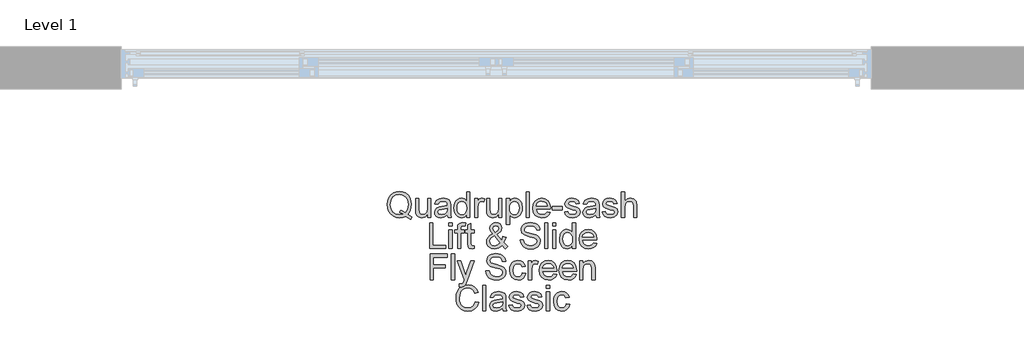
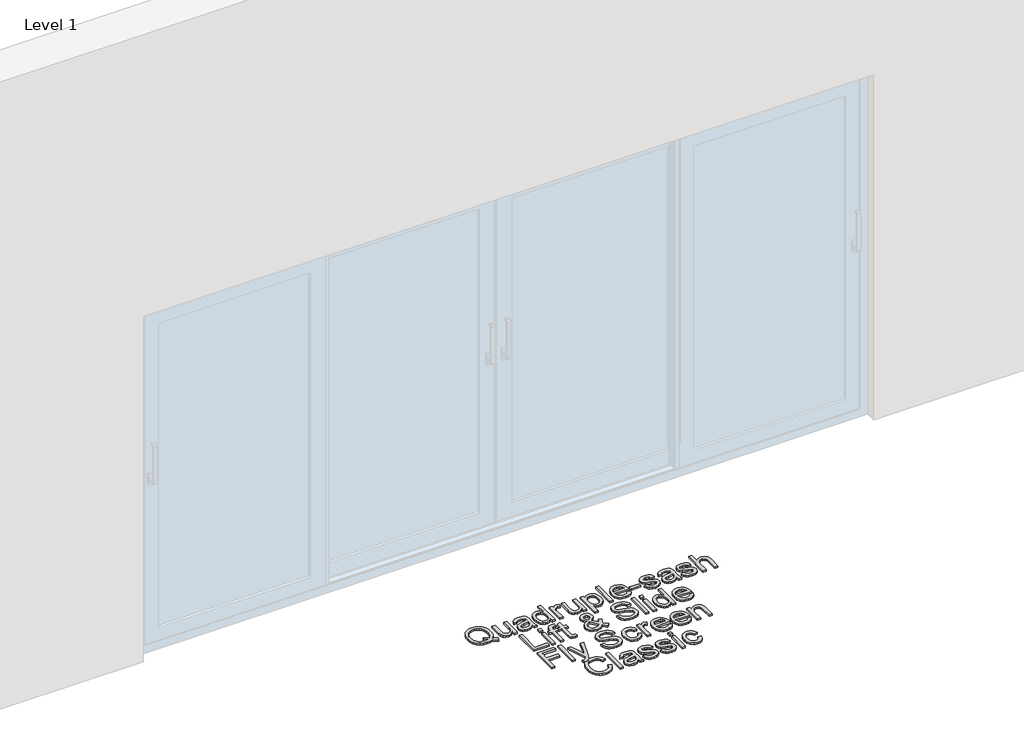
# One storey, part 5 of 17: 1 proxy.
"""IFC4 building model written with IfcOpenShell, lengths in millimetres."""

from ifc_helpers import new_model, si_unit, origin, origin_with_axes, place, context, project, spatial, polyline, outline, extrude, element, save

model = new_model("IFC4")

# Units and contexts
model_context = context("Model", 3, world=origin())
ifc_project = project(units=[si_unit("LENGTHUNIT", "METRE", prefix="MILLI")], contexts=[model_context])

# Site, building, storey
site = spatial("IfcSite", under=ifc_project)
building = spatial("IfcBuilding", under=site)
storey = spatial("IfcBuildingStorey", under=building, Name="Level 1", Elevation=0.0)

# Proxy
placement = place(None, origin())
element("IfcBuildingElementProxy", 1, Name="150mm Arial", ObjectType="150mm Arial", at=placement, inside=storey, context=model_context, shape_type="SweptSolid", body=[
    extrude(outline(polyline([(1259.3241759, -5879.5997474), (1282.6846826, -5895.3083086), (1277.6079111, -5909.1038834), (1246.5954589, -5891.4823358), (1229.1670494, -5897.8834825), (1209.9912004, -5900.0171981), (1190.7233809, -5897.5569873), (1173.3133655, -5890.1763547), (1158.7314429, -5878.3397515), (1147.9479019, -5862.5116287), (1141.2846392, -5843.5611074), (1139.0635517, -5822.3573089), (1141.2800407, -5801.1351163), (1147.9295078, -5781.9086836), (1158.671662, -5765.855233), (1173.1662127, -5754.151987), (1190.5118487, -5747.0058793), (1209.8072594, -5744.6238433), (1229.2544213, -5747.0610616), (1246.6874294, -5754.3727162), (1261.1589874, -5766.0713637), (1271.7217992, -5781.6695603), (1278.1781282, -5800.3395715), (1280.3302379, -5821.2536629), (1275.1063135, -5854.1791015), (1268.548817, -5867.8367206), (1259.3241759, -5879.5997474)]), holes=[polyline([(1215.1783365, -5854.5469835), (1231.0156564, -5860.534263), (1243.7995557, -5868.8575931), (1257.0708987, -5849.4334238), (1261.4946797, -5822.2101561), (1259.9311812, -5805.6324737), (1255.2406858, -5791.2896744), (1247.5381565, -5779.5450417), (1236.9385565, -5770.7618591), (1224.1592557, -5765.2850159), (1209.917624, -5763.4594015), (1189.3898086, -5767.152017), (1172.6879661, -5778.2298636), (1161.5963239, -5796.6377589), (1157.8991099, -5822.3205207), (1161.5549372, -5847.4514595), (1172.5224192, -5865.9697195), (1189.173678, -5877.3786598), (1209.8808358, -5881.18164), (1230.1511337, -5877.318879), (1210.3222942, -5868.9679577), (1215.1783365, -5854.5469835)])]), origin_with_axes(), (0.0, 0.0, 1.0), 10.0),
    extrude(outline(polyline([(1376.8624734, -5897.6627533), (1376.8624734, -5878.6432542), (1362.1104054, -5894.6737121), (1342.870177, -5900.0171981), (1325.156659, -5896.2648018), (1312.9429767, -5886.8470227), (1307.3327763, -5872.9778715), (1306.2291303, -5855.4666885), (1306.2291303, -5787.0038492), (1325.0646885, -5787.0038492), (1325.0646885, -5846.6007324), (1326.2051227, -5865.8041726), (1333.6547331, -5877.0797557), (1347.6894312, -5881.18164), (1363.4163865, -5876.9877852), (1373.8090528, -5865.5650493), (1376.8624734, -5844.5773814), (1376.8624734, -5787.0038492), (1395.6980315, -5787.0038492), (1395.6980315, -5897.6627533), (1376.8624734, -5897.6627533)])), origin_with_axes(), (0.0, 0.0, 1.0), 10.0),
    extrude(outline(polyline([(1492.2302671, -5883.5360847), (1473.964926, -5896.30159), (1453.7865986, -5900.0171981), (1438.0458477, -5897.782315), (1426.4345722, -5891.0776656), (1419.2746689, -5880.8965314), (1416.8880345, -5868.2321937), (1420.493278, -5853.3329729), (1429.9662394, -5842.5172423), (1443.1548089, -5836.3368247), (1459.4519813, -5833.5041334), (1492.1199025, -5827.0294103), (1492.2302671, -5822.8355555), (1490.933483, -5814.4294519), (1487.0431309, -5808.9296161), (1478.3427218, -5804.846126), (1466.22101, -5803.4849626), (1447.1647227, -5807.1086002), (1438.0780374, -5819.966076), (1419.2424792, -5817.6116312), (1427.3910654, -5799.2175314), (1443.7986024, -5788.438589), (1468.6490312, -5784.6494044), (1491.476109, -5787.9971306), (1504.3703729, -5796.4032342), (1510.1461202, -5809.1871335), (1511.0658252, -5825.6682469), (1511.0658252, -5849.10233), (1512.0223184, -5881.8254334), (1515.7747148, -5897.6627533), (1496.9391566, -5897.6627533), (1492.2302671, -5883.5360847)]), holes=[polyline([(1492.2302671, -5845.8649684), (1461.8432143, -5851.6407157), (1445.6380124, -5854.6941363), (1438.2987666, -5859.6605432), (1435.7235926, -5866.9078185), (1441.333793, -5877.0981498), (1457.7965123, -5881.18164), (1476.8527997, -5876.6750855), (1489.1400583, -5865.7673844), (1492.1199025, -5851.1992574), (1492.2302671, -5845.8649684)])]), origin_with_axes(), (0.0, 0.0, 1.0), 10.0),
    extrude(outline(polyline([(1605.243616, -5897.6627533), (1605.243616, -5879.894053), (1592.7816134, -5894.9864118), (1575.555539, -5900.0171981), (1563.3786449, -5898.1961822), (1552.2318205, -5892.7331346), (1542.7956473, -5884.0097328), (1535.7507071, -5872.4076544), (1531.3637143, -5858.3959489), (1529.9013834, -5842.4436659), (1535.2908546, -5812.4612833), (1542.0230951, -5800.5694978), (1551.4408742, -5791.8231033), (1562.8314205, -5786.4428292), (1575.4819626, -5784.6494044), (1592.8459928, -5789.7813583), (1605.243616, -5803.1170806), (1605.243616, -5746.9782881), (1624.0791741, -5746.9782881), (1624.0791741, -5897.6627533), (1605.243616, -5897.6627533)]), holes=[polyline([(1548.7369415, -5842.3700895), (1550.8614601, -5859.4076244), (1557.2350156, -5871.5247376), (1566.4964449, -5878.7674144), (1577.2845844, -5881.18164), (1588.0681253, -5878.877779), (1597.0950298, -5871.966196), (1603.2064694, -5860.3181323), (1605.243616, -5843.8048292), (1603.1696812, -5825.7510203), (1596.947877, -5813.2338354), (1587.6910463, -5805.9221808), (1576.5120322, -5803.4849626), (1565.6135281, -5805.8256118), (1556.6831926, -5812.8475594), (1550.7235043, -5824.9094903), (1548.7369415, -5842.3700895)])]), origin_with_axes(), (0.0, 0.0, 1.0), 10.0),
    extrude(outline(polyline([(1652.3325114, -5897.6627533), (1652.3325114, -5787.0038492), (1668.8136248, -5787.0038492), (1668.8136248, -5803.374598), (1680.5122722, -5788.2914362), (1692.2844961, -5784.6494044), (1711.1936306, -5790.4619399), (1704.9028485, -5807.3477235), (1691.6590967, -5803.4849626), (1681.0089129, -5807.2005707), (1674.2214901, -5817.5012666), (1671.1680695, -5839.5006099), (1671.1680695, -5897.6627533), (1652.3325114, -5897.6627533)])), origin_with_axes(), (0.0, 0.0, 1.0), 10.0),
    extrude(outline(polyline([(1793.5991975, -5897.6627533), (1793.5991975, -5878.6432542), (1778.8471295, -5894.6737121), (1759.6069012, -5900.0171981), (1741.8933831, -5896.2648018), (1729.6797009, -5886.8470227), (1724.0695004, -5872.9778715), (1722.9658544, -5855.4666885), (1722.9658544, -5787.0038492), (1741.8014126, -5787.0038492), (1741.8014126, -5846.6007324), (1742.9418468, -5865.8041726), (1750.3914572, -5877.0797557), (1764.4261553, -5881.18164), (1780.1531106, -5876.9877852), (1790.545777, -5865.5650493), (1793.5991975, -5844.5773814), (1793.5991975, -5787.0038492), (1812.4347557, -5787.0038492), (1812.4347557, -5897.6627533), (1793.5991975, -5897.6627533)])), origin_with_axes(), (0.0, 0.0, 1.0), 10.0),
    extrude(outline(polyline([(1838.3336481, -5940.0427592), (1838.3336481, -5787.0038492), (1857.1692063, -5787.0038492), (1857.1692063, -5805.4715254), (1870.1922289, -5789.8549347), (1887.7769883, -5784.6494044), (1900.5149024, -5786.4704203), (1911.6525298, -5791.9334679), (1920.720821, -5800.7074535), (1927.2507264, -5812.4612833), (1932.5114389, -5841.4871727), (1931.0261153, -5857.5958055), (1926.5701447, -5872.0029842), (1919.2860812, -5883.9775431), (1909.3164791, -5892.7883169), (1897.7052036, -5898.2099778), (1885.4961199, -5900.0171981), (1869.106977, -5895.1795499), (1857.1692063, -5882.9474735), (1857.1692063, -5940.0427592), (1838.3336481, -5940.0427592)]), holes=[polyline([(1857.1692063, -5843.2162181), (1859.2063528, -5860.1020016), (1865.3177925, -5871.9110137), (1874.3354999, -5878.8639834), (1885.0914497, -5881.18164), (1896.0221435, -5878.7812099), (1905.2697772, -5871.5799199), (1911.5743549, -5859.3386465), (1913.6758807, -5841.8182665), (1911.6249386, -5825.0244534), (1905.4721123, -5813.0498945), (1896.4682004, -5805.8761955), (1885.8640019, -5803.4849626), (1875.2184167, -5806.0279469), (1865.8696155, -5813.6568997), (1859.3443086, -5826.1326979), (1857.1692063, -5843.2162181)])]), origin_with_axes(), (0.0, 0.0, 1.0), 10.0),
    extrude(outline(polyline([(1953.7014418, -5897.6627533), (1953.7014418, -5746.9782881), (1972.537, -5746.9782881), (1972.537, -5897.6627533), (1953.7014418, -5897.6627533)])), origin_with_axes(), (0.0, 0.0, 1.0), 10.0),
    extrude(outline(polyline([(2078.2662854, -5864.7005266), (2096.7339615, -5867.0549713), (2090.079896, -5880.9701078), (2079.4619019, -5891.3719712), (2065.1191026, -5897.8558914), (2047.2906214, -5900.0171981), (2025.1901105, -5896.2877944), (2008.1847653, -5885.0995832), (1997.3414435, -5867.1791315), (1993.7270029, -5843.2530063), (1997.3782317, -5818.5221391), (2008.3319181, -5800.0268718), (2025.1073371, -5788.4937713), (2046.2237636, -5784.6494044), (2066.6826011, -5788.4845742), (2083.0303572, -5799.9900836), (2093.7495189, -5818.4485627), (2097.3225727, -5843.1426417), (2097.2122081, -5848.2194132), (2012.5625611, -5848.2194132), (2015.8229152, -5862.3184907), (2023.3966858, -5872.6835659), (2034.3273796, -5879.0571214), (2047.6585034, -5881.18164), (2066.1261795, -5877.2453026), (2078.2662854, -5864.7005266)]), holes=[polyline([(2012.5625611, -5829.383855), (2078.4870146, -5829.383855), (2075.9394318, -5819.4326471), (2070.9454337, -5812.3141305), (2059.9641561, -5805.6922545), (2046.1501872, -5803.4849626), (2033.4536599, -5805.2461976), (2022.9552274, -5810.5299028), (2015.6573683, -5818.765861), (2012.5625611, -5829.383855)])]), origin_with_axes(), (0.0, 0.0, 1.0), 10.0),
    extrude(outline(polyline([(2106.7403518, -5852.9283027), (2106.7403518, -5834.0927446), (2165.601471, -5834.0927446), (2165.601471, -5852.9283027), (2106.7403518, -5852.9283027)])), origin_with_axes(), (0.0, 0.0, 1.0), 10.0),
    extrude(outline(polyline([(2179.7281397, -5864.7005266), (2198.5636978, -5862.3460818), (2201.5343449, -5870.4026975), (2207.2825011, -5876.3255976), (2227.2584934, -5881.18164), (2246.4619336, -5876.7302678), (2252.7159275, -5866.2824192), (2251.143232, -5861.4815591), (2246.4251454, -5857.8211333), (2227.0377642, -5852.4500561), (2198.6740624, -5843.2346122), (2186.2948333, -5832.4740638), (2182.0825844, -5817.2805374), (2185.4670988, -5803.2458393), (2194.7009369, -5792.5220791), (2206.6754958, -5786.9486669), (2222.8806977, -5784.6494044), (2245.799746, -5788.3466185), (2260.367873, -5798.3530087), (2266.8425961, -5815.2571864), (2248.007038, -5817.6116312), (2240.9253096, -5807.2189648), (2224.3522257, -5803.4849626), (2206.3260079, -5807.0534179), (2200.9181426, -5815.367551), (2203.1622228, -5820.8489927), (2210.1887689, -5825.0060593), (2226.4123648, -5829.015973), (2254.0586968, -5837.8819291), (2266.8977784, -5847.9251076), (2271.5514857, -5864.2958564), (2266.088438, -5882.3220741), (2250.3246945, -5895.4002791), (2227.000976, -5900.0171981), (2208.009068, -5897.791512), (2194.1491139, -5891.1144538), (2184.8968817, -5880.0595999), (2179.7281397, -5864.7005266)])), origin_with_axes(), (0.0, 0.0, 1.0), 10.0),
    extrude(outline(polyline([(2363.3748317, -5883.5360847), (2345.1094906, -5896.30159), (2324.9311632, -5900.0171981), (2309.1904123, -5897.782315), (2297.5791368, -5891.0776656), (2290.4192335, -5880.8965314), (2288.032599, -5868.2321937), (2291.6378426, -5853.3329729), (2301.110804, -5842.5172423), (2314.2993735, -5836.3368247), (2330.5965459, -5833.5041334), (2363.2644671, -5827.0294103), (2363.3748317, -5822.8355555), (2362.0780476, -5814.4294519), (2358.1876955, -5808.9296161), (2349.4872863, -5804.846126), (2337.3655746, -5803.4849626), (2318.3092872, -5807.1086002), (2309.222602, -5819.966076), (2290.3870438, -5817.6116312), (2298.53563, -5799.2175314), (2314.943167, -5788.438589), (2339.7935958, -5784.6494044), (2362.6206736, -5787.9971306), (2375.5149375, -5796.4032342), (2381.2906848, -5809.1871335), (2382.2103898, -5825.6682469), (2382.2103898, -5849.10233), (2383.166883, -5881.8254334), (2386.9192793, -5897.6627533), (2368.0837212, -5897.6627533), (2363.3748317, -5883.5360847)]), holes=[polyline([(2363.3748317, -5845.8649684), (2332.9877789, -5851.6407157), (2316.782577, -5854.6941363), (2309.4433312, -5859.6605432), (2306.8681572, -5866.9078185), (2312.4783576, -5877.0981498), (2328.9410769, -5881.18164), (2347.9973643, -5876.6750855), (2360.2846229, -5865.7673844), (2363.2644671, -5851.1992574), (2363.3748317, -5845.8649684)])]), origin_with_axes(), (0.0, 0.0, 1.0), 10.0),
    extrude(outline(polyline([(2401.045948, -5864.7005266), (2419.8815061, -5862.3460818), (2422.8521532, -5870.4026975), (2428.6003094, -5876.3255976), (2448.5763017, -5881.18164), (2467.7797419, -5876.7302678), (2474.0337358, -5866.2824192), (2472.4610403, -5861.4815591), (2467.7429537, -5857.8211333), (2448.3555725, -5852.4500561), (2419.9918707, -5843.2346122), (2407.6126416, -5832.4740638), (2403.4003927, -5817.2805374), (2406.7849071, -5803.2458393), (2416.0187452, -5792.5220791), (2427.9933041, -5786.9486669), (2444.198506, -5784.6494044), (2467.1175543, -5788.3466185), (2481.6856813, -5798.3530087), (2488.1604044, -5815.2571864), (2469.3248463, -5817.6116312), (2462.2431179, -5807.2189648), (2445.670034, -5803.4849626), (2427.6438162, -5807.0534179), (2422.2359509, -5815.367551), (2424.4800311, -5820.8489927), (2431.5065772, -5825.0060593), (2447.7301731, -5829.015973), (2475.3765051, -5837.8819291), (2488.2155867, -5847.9251076), (2492.869294, -5864.2958564), (2487.4062463, -5882.3220741), (2471.6425028, -5895.4002791), (2448.3187843, -5900.0171981), (2429.3268763, -5897.791512), (2415.4669222, -5891.1144538), (2406.21469, -5880.0595999), (2401.045948, -5864.7005266)])), origin_with_axes(), (0.0, 0.0, 1.0), 10.0),
    extrude(outline(polyline([(2514.0592969, -5897.6627533), (2514.0592969, -5746.9782881), (2532.894855, -5746.9782881), (2532.894855, -5802.3813166), (2547.5825437, -5789.0823825), (2565.6731408, -5784.6494044), (2586.8263555, -5789.4870527), (2599.6654372, -5802.8595632), (2603.5281981, -5827.6180215), (2603.5281981, -5897.6627533), (2584.69264, -5897.6627533), (2584.69264, -5829.567796), (2583.1935208, -5817.7771781), (2578.6961634, -5809.7021683), (2571.4488881, -5805.039264), (2561.7000153, -5803.4849626), (2546.2673656, -5807.6788173), (2535.9666697, -5819.046371), (2532.894855, -5838.8752105), (2532.894855, -5897.6627533), (2514.0592969, -5897.6627533)])), origin_with_axes(), (0.0, 0.0, 1.0), 10.0),
    extrude(outline(polyline([(1387.4574748, -6080.6249801), (1387.4574748, -5929.9405149), (1406.293033, -5929.9405149), (1406.293033, -6061.789422), (1481.6352656, -6061.789422), (1481.6352656, -6080.6249801), (1387.4574748, -6080.6249801)])), origin_with_axes(), (0.0, 0.0, 1.0), 10.0),
    extrude(outline(polyline([(1500.4708238, -5948.776073), (1500.4708238, -5929.9405149), (1519.3063819, -5929.9405149), (1519.3063819, -5948.776073), (1500.4708238, -5948.776073)])), origin_with_axes(), (0.0, 0.0, 1.0), 10.0),
    extrude(outline(polyline([(1500.4708238, -6080.6249801), (1500.4708238, -5969.966076), (1519.3063819, -5969.966076), (1519.3063819, -6080.6249801), (1500.4708238, -6080.6249801)])), origin_with_axes(), (0.0, 0.0, 1.0), 10.0),
    extrude(outline(polyline([(1648.8008442, -6064.9164189), (1651.155289, -6081.1768031), (1637.0654086, -6082.9794249), (1621.283271, -6079.8524279), (1613.4105963, -6071.6486594), (1611.1297279, -6050.2747155), (1611.1297279, -5988.8016341), (1597.0030593, -5988.8016341), (1597.0030593, -5969.966076), (1611.1297279, -5969.966076), (1611.1297279, -5943.0739021), (1629.9652861, -5932.0006541), (1629.9652861, -5969.966076), (1648.8008442, -5969.966076), (1648.8008442, -5988.8016341), (1629.9652861, -5988.8016341), (1629.9652861, -6049.7228925), (1630.9585675, -6059.4349772), (1634.1775349, -6062.8746738), (1640.5970757, -6064.1438667), (1648.8008442, -6064.9164189)])), origin_with_axes(), (0.0, 0.0, 1.0), 10.0),
    extrude(outline(polyline([(1552.2686087, -6080.6249801), (1552.2686087, -5988.8016341), (1535.7874953, -5988.8016341), (1535.7874953, -5969.966076), (1552.2686087, -5969.966076), (1552.2686087, -5958.8192515), (1554.2551715, -5943.1106903), (1563.8936797, -5931.8902895), (1582.8763907, -5927.5860701), (1600.0564799, -5929.6462093), (1597.2973649, -5947.3045451), (1586.444846, -5946.4216283), (1574.5806517, -5949.5486252), (1571.1041668, -5961.2104845), (1571.1041668, -5969.966076), (1592.2941698, -5969.966076), (1592.2941698, -5988.8016341), (1571.1041668, -5988.8016341), (1571.1041668, -6080.6249801), (1552.2686087, -6080.6249801)])), origin_with_axes(), (0.0, 0.0, 1.0), 10.0),
    extrude(outline(polyline([(1812.9130023, -6062.0101512), (1792.9370099, -6077.7371064), (1769.5765032, -6082.9794249), (1748.7911705, -6079.0982698), (1732.7883037, -6067.4548047), (1724.53855, -6054.054703), (1721.7886321, -6039.1646793), (1724.0005226, -6025.9669127), (1730.636194, -6014.1119154), (1741.6680554, -6003.6088844), (1757.0685154, -5994.4670168), (1743.9167341, -5975.4107295), (1740.6241902, -5961.2840609), (1743.2177583, -5948.5645409), (1750.9984625, -5937.6292486), (1762.706307, -5930.0968647), (1777.0812959, -5927.5860701), (1790.7573091, -5929.9865001), (1801.6926014, -5937.1877902), (1808.8663003, -5947.7552005), (1811.2575333, -5960.2539913), (1809.4871012, -5970.7478252), (1804.1758049, -5980.4507128), (1782.9306197, -5997.4836492), (1810.1906755, -6031.4391574), (1818.3208676, -6010.5802482), (1837.1564258, -6014.6637384), (1823.8390975, -6045.6761906), (1846.5742048, -6068.4848743), (1832.4475362, -6082.9794249), (1812.9130023, -6062.0101512)]), holes=[polyline([(1773.402476, -5985.6010608), (1788.890308, -5973.9208074), (1792.4219751, -5962.8291653), (1787.7682679, -5951.0017591), (1776.1248028, -5946.4216283), (1764.2238202, -5950.9649709), (1759.4597484, -5962.0566131), (1761.0784291, -5968.9544005), (1765.9712597, -5976.6247401), (1773.402476, -5985.6010608)]), polyline([(1800.2946498, -6048.4353055), (1766.6702355, -6006.4599699), (1745.9768732, -6022.2421075), (1740.6241902, -6036.6630817), (1742.4544031, -6045.5474319), (1747.9450419, -6054.7628758), (1756.7926039, -6061.798619), (1768.6935864, -6064.1438667), (1786.0024343, -6059.766071), (1800.2946498, -6048.4353055)])]), origin_with_axes(), (0.0, 0.0, 1.0), 10.0),
    extrude(outline(polyline([(1919.5619927, -6028.8271952), (1938.3975508, -6028.8271952), (1944.4676037, -6047.6811474), (1959.2932482, -6059.6005241), (1981.8812027, -6064.1438667), (2001.5628894, -6060.7041701), (2014.2732123, -6051.2496028), (2018.448673, -6038.6128563), (2015.321676, -6026.8590265), (2002.5193826, -6018.3057701), (1975.0937798, -6011.1136771), (1945.5712497, -6001.8246567), (1929.5499888, -5987.8083527), (1924.2708822, -5969.0831592), (1925.9033586, -5958.0512978), (1930.8007876, -5947.7643976), (1938.8344107, -5939.0455943), (1949.8754691, -5932.7180239), (1977.7977125, -5927.5860701), (2007.5961541, -5932.9571472), (2019.0188901, -5939.5882202), (2027.4617819, -5948.7392848), (2032.8052678, -5959.840124), (2034.9297864, -5972.3205207), (2016.0942282, -5972.3205207), (2012.6361375, -5961.0817258), (2005.4256503, -5952.9699278), (1994.1592642, -5948.0587031), (1978.5334765, -5946.4216283), (1962.5398068, -5948.040309), (1951.5677263, -5952.8963514), (1945.2217618, -5960.0424591), (1943.1064404, -5968.5313362), (1944.6055595, -5975.7694144), (1949.1029169, -5981.591147), (1979.8578517, -5992.1125721), (2013.1879604, -6001.5671393), (2023.9255162, -6008.4005474), (2031.4165133, -6016.8342421), (2035.8173017, -6026.7762531), (2037.2842311, -6038.1346097), (2035.5965725, -6049.7458851), (2030.5335965, -6060.6673819), (2022.3022369, -6070.0667668), (2011.1094272, -6077.1117071), (1997.6495447, -6081.5124954), (1982.6169666, -6082.9794249), (1964.1630861, -6081.3975323), (1948.9741582, -6076.6518546), (1936.8754391, -6068.7239976), (1927.6921848, -6057.5955672), (1921.7968758, -6044.0391157), (1919.5619927, -6028.8271952)])), origin_with_axes(), (0.0, 0.0, 1.0), 10.0),
    extrude(outline(polyline([(2063.1831236, -6080.6249801), (2063.1831236, -5929.9405149), (2082.0186817, -5929.9405149), (2082.0186817, -6080.6249801), (2063.1831236, -6080.6249801)])), origin_with_axes(), (0.0, 0.0, 1.0), 10.0),
    extrude(outline(polyline([(2110.272019, -5948.776073), (2110.272019, -5929.9405149), (2129.1075771, -5929.9405149), (2129.1075771, -5948.776073), (2110.272019, -5948.776073)])), origin_with_axes(), (0.0, 0.0, 1.0), 10.0),
    extrude(outline(polyline([(2110.272019, -6080.6249801), (2110.272019, -5969.966076), (2129.1075771, -5969.966076), (2129.1075771, -6080.6249801), (2110.272019, -6080.6249801)])), origin_with_axes(), (0.0, 0.0, 1.0), 10.0),
    extrude(outline(polyline([(2225.6398127, -6080.6249801), (2225.6398127, -6062.8562797), (2213.1778101, -6077.9486386), (2195.9517356, -6082.9794249), (2183.7748416, -6081.158409), (2172.6280172, -6075.6953614), (2163.191844, -6066.9719596), (2156.1469038, -6055.3698811), (2151.759911, -6041.3581756), (2150.29758, -6025.4058926), (2155.6870513, -5995.42351), (2162.4192918, -5983.5317245), (2171.8370709, -5974.7853301), (2183.2276171, -5969.4050559), (2195.8781592, -5967.6116312), (2213.2421894, -5972.743585), (2225.6398127, -5986.0793073), (2225.6398127, -5929.9405149), (2244.4753708, -5929.9405149), (2244.4753708, -6080.6249801), (2225.6398127, -6080.6249801)]), holes=[polyline([(2169.1331382, -6025.3323162), (2171.2576567, -6042.3698511), (2177.6312123, -6054.4869644), (2186.8926415, -6061.7296411), (2197.680781, -6064.1438667), (2208.464322, -6061.8400057), (2217.4912265, -6054.9284227), (2223.6026661, -6043.2803591), (2225.6398127, -6026.767056), (2223.5658779, -6008.7132471), (2217.3440737, -5996.1960622), (2208.087243, -5988.8844076), (2196.9082288, -5986.4471893), (2186.0097247, -5988.7878385), (2177.0793893, -5995.8097861), (2171.119701, -6007.871717), (2169.1331382, -6025.3323162)])]), origin_with_axes(), (0.0, 0.0, 1.0), 10.0),
    extrude(outline(polyline([(2350.2046562, -6047.6627533), (2368.6723324, -6050.0171981), (2362.0182668, -6063.9323346), (2351.4002727, -6074.334198), (2337.0574734, -6080.8181182), (2319.2289922, -6082.9794249), (2297.1284814, -6079.2500212), (2280.1231361, -6068.06181), (2269.2798143, -6050.1413583), (2265.6653737, -6026.215233), (2269.3166025, -6001.4843659), (2280.2702889, -5982.9890986), (2297.0457079, -5971.455998), (2318.1621344, -5967.6116312), (2338.6209719, -5971.446801), (2354.9687281, -5982.9523104), (2365.6878897, -6001.4107895), (2369.2609436, -6026.1048684), (2369.150579, -6031.18164), (2284.5009319, -6031.18164), (2287.7612861, -6045.2807174), (2295.3350566, -6055.6457926), (2306.2657504, -6062.0193482), (2319.5968742, -6064.1438667), (2338.0645504, -6060.2075294), (2350.2046562, -6047.6627533)]), holes=[polyline([(2284.5009319, -6012.3460818), (2350.4253854, -6012.3460818), (2347.8778026, -6002.3948738), (2342.8838045, -5995.2763572), (2331.902527, -5988.6544813), (2318.088558, -5986.4471893), (2305.3920307, -5988.2084244), (2294.8935983, -5993.4921296), (2287.5957392, -6001.7280877), (2284.5009319, -6012.3460818)])]), origin_with_axes(), (0.0, 0.0, 1.0), 10.0),
    extrude(outline(polyline([(1390.989142, -6263.5872069), (1390.989142, -6112.9027417), (1492.2302671, -6112.9027417), (1492.2302671, -6131.7382998), (1409.8247002, -6131.7382998), (1409.8247002, -6176.4727504), (1480.4580432, -6176.4727504), (1480.4580432, -6195.3083086), (1409.8247002, -6195.3083086), (1409.8247002, -6263.5872069), (1390.989142, -6263.5872069)])), origin_with_axes(), (0.0, 0.0, 1.0), 10.0),
    extrude(outline(polyline([(1515.7747148, -6263.5872069), (1515.7747148, -6112.9027417), (1534.6102729, -6112.9027417), (1534.6102729, -6263.5872069), (1515.7747148, -6263.5872069)])), origin_with_axes(), (0.0, 0.0, 1.0), 10.0),
    extrude(outline(polyline([(1562.8636101, -6305.9672127), (1560.5091654, -6287.8306304), (1570.0740973, -6289.4860993), (1579.0136297, -6287.4075661), (1584.4950715, -6281.6134246), (1589.6454194, -6267.7442734), (1591.1169474, -6263.1825367), (1551.0913863, -6152.9283027), (1570.957014, -6152.9283027), (1592.1838052, -6214.3645959), (1599.5782333, -6238.9391132), (1606.9726614, -6217.2340755), (1628.7880637, -6152.9283027), (1648.5065386, -6152.9283027), (1609.9892937, -6266.2359572), (1599.9829035, -6290.8104745), (1589.0568082, -6304.0910145), (1574.3783166, -6308.3216575), (1562.8636101, -6305.9672127)])), origin_with_axes(), (0.0, 0.0, 1.0), 10.0),
    extrude(outline(polyline([(1718.2569649, -6211.789422), (1737.0925231, -6211.789422), (1743.162576, -6230.6433742), (1757.9882204, -6242.5627509), (1780.5761749, -6247.1060935), (1800.2578616, -6243.6663968), (1812.9681846, -6234.2118296), (1817.1436452, -6221.575083), (1814.0166483, -6209.8212533), (1801.2143548, -6201.2679969), (1773.7887521, -6194.0759039), (1744.266222, -6184.7868835), (1728.2449611, -6170.7705795), (1722.9658544, -6152.0453859), (1724.5983308, -6141.0135246), (1729.4957599, -6130.7266243), (1737.5293829, -6122.007821), (1748.5704413, -6115.6802507), (1776.4926847, -6110.5482969), (1806.2911264, -6115.919374), (1817.7138623, -6122.550447), (1826.1567541, -6131.7015116), (1831.5002401, -6142.8023508), (1833.6247586, -6155.2827475), (1814.7892004, -6155.2827475), (1811.3311097, -6144.0439525), (1804.1206226, -6135.9321546), (1792.8542365, -6131.0209299), (1777.2284487, -6129.383855), (1761.234779, -6131.0025358), (1750.2626985, -6135.8585782), (1743.9167341, -6143.0046859), (1741.8014126, -6151.4935629), (1743.3005317, -6158.7316412), (1747.7978891, -6164.5533738), (1778.5528239, -6175.0747988), (1811.8829327, -6184.5293661), (1822.6204884, -6191.3627742), (1830.1114855, -6199.7964689), (1834.5122739, -6209.7384798), (1835.9792034, -6221.0968364), (1834.2915447, -6232.7081119), (1829.2285688, -6243.6296086), (1820.9972091, -6253.0289936), (1809.8043994, -6260.0739338), (1796.3445169, -6264.4747222), (1781.3119389, -6265.9416516), (1762.8580583, -6264.3597591), (1747.6691304, -6259.6140813), (1735.5704113, -6251.6862243), (1726.387157, -6240.557794), (1720.491848, -6227.0013425), (1718.2569649, -6211.789422)])), origin_with_axes(), (0.0, 0.0, 1.0), 10.0),
    extrude(outline(polyline([(1932.5114389, -6223.5616458), (1951.3469971, -6225.9160906), (1946.0954816, -6242.6685169), (1936.2270471, -6255.3282561), (1922.6705955, -6263.2883028), (1906.355029, -6265.9416516), (1886.3192559, -6262.2398391), (1870.6520814, -6251.1344013), (1860.5399251, -6233.1127821), (1857.1692063, -6208.662425), (1858.6085446, -6191.9008016), (1862.9265595, -6177.3740613), (1870.1922289, -6165.6432242), (1880.4745307, -6157.2693103), (1892.7755849, -6152.247721), (1906.0975116, -6150.573858), (1922.0130065, -6152.8731204), (1934.737125, -6159.7709078), (1943.865197, -6170.8993382), (1948.9925523, -6185.8905295), (1930.1569941, -6188.2449743), (1921.4197967, -6174.1366998), (1906.2446644, -6169.4094161), (1894.0723689, -6171.7362697), (1884.410868, -6178.7168306), (1878.1062903, -6190.7281777), (1876.0047644, -6208.1473902), (1878.0603051, -6225.8011274), (1884.226927, -6237.8538613), (1893.713684, -6244.7930354), (1905.7296297, -6247.1060935), (1915.483101, -6245.6621567), (1923.4799359, -6241.3303462), (1929.29707, -6234.0002974), (1932.5114389, -6223.5616458)])), origin_with_axes(), (0.0, 0.0, 1.0), 10.0),
    extrude(outline(polyline([(1967.8281104, -6263.5872069), (1967.8281104, -6152.9283027), (1984.3092238, -6152.9283027), (1984.3092238, -6169.2990515), (1996.0078713, -6154.2158897), (2007.7800951, -6150.573858), (2026.6892297, -6156.3863935), (2020.3984475, -6173.2721771), (2007.1546957, -6169.4094161), (1996.504512, -6173.1250243), (1989.7170892, -6183.4257201), (1986.6636686, -6205.4250634), (1986.6636686, -6263.5872069), (1967.8281104, -6263.5872069)])), origin_with_axes(), (0.0, 0.0, 1.0), 10.0),
    extrude(outline(polyline([(2115.9374017, -6230.6249801), (2134.4050779, -6232.9794249), (2127.7510123, -6246.8945613), (2117.1330182, -6257.2964248), (2102.7902189, -6263.7803449), (2084.9617377, -6265.9416516), (2062.8612268, -6262.2122479), (2045.8558816, -6251.0240367), (2035.0125598, -6233.1035851), (2031.3981192, -6209.1774598), (2035.049348, -6184.4465927), (2046.0030344, -6165.9513254), (2062.7784534, -6154.4182248), (2083.8948799, -6150.573858), (2104.3537174, -6154.4090278), (2120.7014735, -6165.9145372), (2131.4206352, -6184.3730163), (2134.993689, -6209.0670952), (2134.8833244, -6214.1438667), (2050.2336774, -6214.1438667), (2053.4940315, -6228.2429442), (2061.0678021, -6238.6080194), (2071.9984959, -6244.981575), (2085.3296197, -6247.1060935), (2103.7972959, -6243.1697561), (2115.9374017, -6230.6249801)]), holes=[polyline([(2050.2336774, -6195.3083086), (2116.1581309, -6195.3083086), (2113.6105481, -6185.3571006), (2108.61655, -6178.238584), (2097.6352724, -6171.6167081), (2083.8213035, -6169.4094161), (2071.1247762, -6171.1706512), (2060.6263437, -6176.4543563), (2053.3284846, -6184.6903145), (2050.2336774, -6195.3083086)])]), origin_with_axes(), (0.0, 0.0, 1.0), 10.0),
    extrude(outline(polyline([(2231.3051954, -6230.6249801), (2249.7728715, -6232.9794249), (2243.118806, -6246.8945613), (2232.5008119, -6257.2964248), (2218.1580126, -6263.7803449), (2200.3295314, -6265.9416516), (2178.2290205, -6262.2122479), (2161.2236753, -6251.0240367), (2150.3803535, -6233.1035851), (2146.7659129, -6209.1774598), (2150.4171417, -6184.4465927), (2161.3708281, -6165.9513254), (2178.1462471, -6154.4182248), (2199.2626736, -6150.573858), (2219.7215111, -6154.4090278), (2236.0692672, -6165.9145372), (2246.7884289, -6184.3730163), (2250.3614827, -6209.0670952), (2250.2511181, -6214.1438667), (2165.601471, -6214.1438667), (2168.8618252, -6228.2429442), (2176.4355958, -6238.6080194), (2187.3662896, -6244.981575), (2200.6974134, -6247.1060935), (2219.1650895, -6243.1697561), (2231.3051954, -6230.6249801)]), holes=[polyline([(2165.601471, -6195.3083086), (2231.5259246, -6195.3083086), (2228.9783418, -6185.3571006), (2223.9843437, -6178.238584), (2213.0030661, -6171.6167081), (2199.1890972, -6169.4094161), (2186.4925698, -6171.1706512), (2175.9941374, -6176.4543563), (2168.6962783, -6184.6903145), (2165.601471, -6195.3083086)])]), origin_with_axes(), (0.0, 0.0, 1.0), 10.0),
    extrude(outline(polyline([(2269.1970409, -6263.5872069), (2269.1970409, -6152.9283027), (2288.032599, -6152.9283027), (2288.032599, -6168.3793465), (2302.4351792, -6155.0252301), (2322.0984718, -6150.573858), (2339.8855663, -6154.1607074), (2352.0256721, -6163.5784865), (2357.6726607, -6177.4292436), (2358.6659421, -6195.6394024), (2358.6659421, -6263.5872069), (2339.830384, -6263.5872069), (2339.830384, -6198.1777881), (2337.6598802, -6181.5127338), (2329.9895406, -6172.70196), (2317.0584885, -6169.4094161), (2306.0266271, -6171.2580231), (2296.6226436, -6176.8038442), (2290.1801102, -6187.5184073), (2288.032599, -6204.8732404), (2288.032599, -6263.5872069), (2269.1970409, -6263.5872069)])), origin_with_axes(), (0.0, 0.0, 1.0), 10.0),
    extrude(outline(polyline([(1655.8641785, -6392.9858151), (1674.6997367, -6397.8418575), (1666.0085245, -6419.790617), (1652.3692996, -6435.8256735), (1634.4534464, -6445.6343272), (1612.9323497, -6448.9038784), (1591.0847577, -6446.429872), (1573.7345231, -6439.0078527), (1560.435589, -6426.8953381), (1550.7418984, -6410.3498453), (1544.8235968, -6390.8980848), (1542.8508296, -6370.0667668), (1545.0811142, -6348.0950147), (1551.771968, -6329.1215008), (1562.5739031, -6313.7486319), (1577.1374316, -6302.5788148), (1594.4094912, -6295.7775964), (1613.3370199, -6293.5105237), (1633.9889954, -6296.4443826), (1651.0633185, -6305.2459593), (1664.0265603, -6319.3726279), (1672.3452919, -6338.2817625), (1653.5097338, -6342.7699228), (1646.9798283, -6329.0341288), (1638.05869, -6319.6117512), (1626.635954, -6314.1624992), (1612.6012559, -6312.3460818), (1596.4236452, -6314.3602357), (1583.1339081, -6320.4026975), (1573.0493429, -6329.8388707), (1566.4872478, -6342.0341588), (1561.6863878, -6370.0299786), (1563.107332, -6387.430797), (1567.3701646, -6402.4771706), (1574.635834, -6414.5942838), (1585.0652886, -6423.2073211), (1597.5686779, -6428.3530705), (1611.0561515, -6430.0683203), (1626.7785083, -6427.7322696), (1639.8797058, -6420.7241176), (1649.771133, -6409.1174406), (1655.8641785, -6392.9858151)])), origin_with_axes(), (0.0, 0.0, 1.0), 10.0),
    extrude(outline(polyline([(1698.2441844, -6446.5494336), (1698.2441844, -6295.8649684), (1717.0797425, -6295.8649684), (1717.0797425, -6446.5494336), (1698.2441844, -6446.5494336)])), origin_with_axes(), (0.0, 0.0, 1.0), 10.0),
    extrude(outline(polyline([(1815.9664228, -6432.422765), (1797.7010818, -6445.1882703), (1777.5227543, -6448.9038784), (1761.7820035, -6446.6689953), (1750.170728, -6439.9643459), (1743.0108247, -6429.7832117), (1740.6241902, -6417.118874), (1744.2294338, -6402.2196532), (1753.7023951, -6391.4039226), (1766.8909647, -6385.223505), (1783.1881371, -6382.3908137), (1815.8560582, -6375.9160906), (1815.9664228, -6371.7222358), (1814.6696388, -6363.3161322), (1810.7792867, -6357.8162964), (1802.0788775, -6353.7328063), (1789.9571658, -6352.3716429), (1770.9008784, -6355.9952805), (1761.8141931, -6368.8527563), (1742.978635, -6366.4983115), (1751.1272212, -6348.1042117), (1767.5347582, -6337.3252693), (1792.3851869, -6333.5360847), (1815.2122647, -6336.8838109), (1828.1065287, -6345.2899145), (1833.882276, -6358.0738138), (1834.801981, -6374.5549272), (1834.801981, -6397.9890103), (1835.7584742, -6430.7121138), (1839.5108705, -6446.5494336), (1820.6753124, -6446.5494336), (1815.9664228, -6432.422765)]), holes=[polyline([(1815.9664228, -6394.7516487), (1785.57937, -6400.527396), (1769.3741681, -6403.5808166), (1762.0349223, -6408.5472235), (1759.4597484, -6415.7944988), (1765.0699488, -6425.9848301), (1781.5326681, -6430.0683203), (1800.5889554, -6425.5617658), (1812.8762141, -6414.6540647), (1815.8560582, -6400.0859377), (1815.9664228, -6394.7516487)])]), origin_with_axes(), (0.0, 0.0, 1.0), 10.0),
    extrude(outline(polyline([(1853.6375391, -6413.5872069), (1872.4730973, -6411.2327621), (1875.4437444, -6419.2893778), (1881.1919006, -6425.2122779), (1901.1678929, -6430.0683203), (1920.3713331, -6425.6169481), (1926.625327, -6415.1690995), (1925.0526314, -6410.3682394), (1920.3345449, -6406.7078136), (1900.9471637, -6401.3367364), (1872.5834619, -6392.1212925), (1860.2042327, -6381.3607441), (1855.9919839, -6366.1672177), (1859.3764983, -6352.1325196), (1868.6103363, -6341.4087594), (1880.5848953, -6335.8353472), (1896.7900972, -6333.5360847), (1919.7091455, -6337.2332988), (1934.2772725, -6347.239689), (1940.7519956, -6364.1438667), (1921.9164374, -6366.4983115), (1914.834709, -6356.1056451), (1898.2616252, -6352.3716429), (1880.2354074, -6355.9400982), (1874.8275421, -6364.2542313), (1877.0716222, -6369.7356731), (1884.0981683, -6373.8927396), (1900.3217643, -6377.9026533), (1927.9680963, -6386.7686094), (1940.8071779, -6396.8117879), (1945.4608851, -6413.1825367), (1939.9978375, -6431.2087544), (1924.234094, -6444.2869594), (1900.9103755, -6448.9038784), (1881.9184675, -6446.6781923), (1868.0585133, -6440.0011341), (1858.8062812, -6428.9462802), (1853.6375391, -6413.5872069)])), origin_with_axes(), (0.0, 0.0, 1.0), 10.0),
    extrude(outline(polyline([(1959.5875537, -6413.5872069), (1978.4231119, -6411.2327621), (1981.393759, -6419.2893778), (1987.1419152, -6425.2122779), (2007.1179075, -6430.0683203), (2026.3213477, -6425.6169481), (2032.5753416, -6415.1690995), (2031.0026461, -6410.3682394), (2026.2845595, -6406.7078136), (2006.8971783, -6401.3367364), (1978.5334765, -6392.1212925), (1966.1542474, -6381.3607441), (1961.9419985, -6366.1672177), (1965.3265129, -6352.1325196), (1974.560351, -6341.4087594), (1986.5349099, -6335.8353472), (2002.7401118, -6333.5360847), (2025.6591601, -6337.2332988), (2040.2272871, -6347.239689), (2046.7020102, -6364.1438667), (2027.8664521, -6366.4983115), (2020.7847236, -6356.1056451), (2004.2116398, -6352.3716429), (1986.185422, -6355.9400982), (1980.7775567, -6364.2542313), (1983.0216368, -6369.7356731), (1990.0481829, -6373.8927396), (2006.2717789, -6377.9026533), (2033.9181109, -6386.7686094), (2046.7571925, -6396.8117879), (2051.4108997, -6413.1825367), (2045.9478521, -6431.2087544), (2030.1841086, -6444.2869594), (2006.8603901, -6448.9038784), (1987.8684821, -6446.6781923), (1974.008528, -6440.0011341), (1964.7562958, -6428.9462802), (1959.5875537, -6413.5872069)])), origin_with_axes(), (0.0, 0.0, 1.0), 10.0),
    extrude(outline(polyline([(2072.6009027, -6314.7005266), (2072.6009027, -6295.8649684), (2091.4364608, -6295.8649684), (2091.4364608, -6314.7005266), (2072.6009027, -6314.7005266)])), origin_with_axes(), (0.0, 0.0, 1.0), 10.0),
    extrude(outline(polyline([(2072.6009027, -6446.5494336), (2072.6009027, -6335.8905295), (2091.4364608, -6335.8905295), (2091.4364608, -6446.5494336), (2072.6009027, -6446.5494336)])), origin_with_axes(), (0.0, 0.0, 1.0), 10.0),
    extrude(outline(polyline([(2190.3231411, -6406.5238726), (2209.1586993, -6408.8783173), (2203.9071838, -6425.6307437), (2194.0387493, -6438.2904829), (2180.4822978, -6446.2505295), (2164.1667313, -6448.9038784), (2144.1309581, -6445.2020658), (2128.4637836, -6434.0966281), (2118.3516273, -6416.0750089), (2114.9809085, -6391.6246518), (2116.4202468, -6374.8630284), (2120.7382617, -6360.3362881), (2128.0039311, -6348.605451), (2138.2862329, -6340.231537), (2150.5872871, -6335.2099478), (2163.9092139, -6333.5360847), (2179.8247087, -6335.8353472), (2192.5488272, -6342.7331346), (2201.6768992, -6353.861565), (2206.8042545, -6368.8527563), (2187.9686964, -6371.207201), (2179.231499, -6357.0989265), (2164.0563667, -6352.3716429), (2151.8840712, -6354.6984965), (2142.2225703, -6361.6790574), (2135.9179926, -6373.6904045), (2133.8164667, -6391.109617), (2135.8720073, -6408.7633542), (2142.0386293, -6420.8160881), (2151.5253862, -6427.7552622), (2163.5413319, -6430.0683203), (2173.2948033, -6428.6243834), (2181.2916381, -6424.2925729), (2187.1087722, -6416.9625242), (2190.3231411, -6406.5238726)])), origin_with_axes(), (0.0, 0.0, 1.0), 10.0),
])

save(model, "model.ifc")
